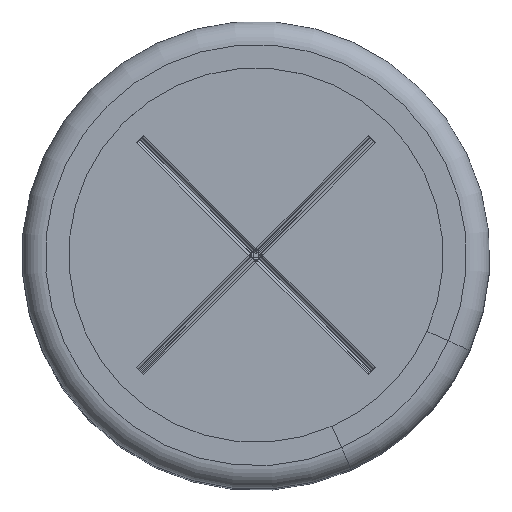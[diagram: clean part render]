
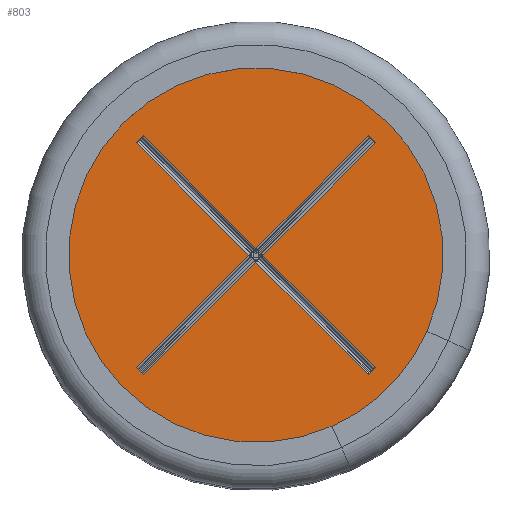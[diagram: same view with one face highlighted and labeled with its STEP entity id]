
A CAD part, top view. The second image highlights one B-rep face of the part: STEP entity #803.
In plain terms, the highlighted planar face has unit normal (0, 0, 1).
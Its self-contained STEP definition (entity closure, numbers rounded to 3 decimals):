
#176=FACE_BOUND('',#1284,.T.);
#177=FACE_BOUND('',#1285,.T.);
#687=PLANE('',#4047);
#803=ADVANCED_FACE('',(#176,#177),#687,.T.);
#1284=EDGE_LOOP('',(#2130));
#1285=EDGE_LOOP('',(#2131,#2132,#2133,#2134,#2135,#2136,#2137,#2138,#2139,
#2140,#2141,#2142));
#1517=LINE('',#5710,#1771);
#1518=LINE('',#5713,#1772);
#1519=LINE('',#5715,#1773);
#1520=LINE('',#5717,#1774);
#1521=LINE('',#5719,#1775);
#1522=LINE('',#5721,#1776);
#1523=LINE('',#5723,#1777);
#1524=LINE('',#5725,#1778);
#1525=LINE('',#5727,#1779);
#1526=LINE('',#5729,#1780);
#1527=LINE('',#5731,#1781);
#1528=LINE('',#5733,#1782);
#1771=VECTOR('',#4590,1.);
#1772=VECTOR('',#4591,1.);
#1773=VECTOR('',#4592,1.);
#1774=VECTOR('',#4593,1.);
#1775=VECTOR('',#4594,1.);
#1776=VECTOR('',#4595,1.);
#1777=VECTOR('',#4596,1.);
#1778=VECTOR('',#4597,1.);
#1779=VECTOR('',#4598,1.);
#1780=VECTOR('',#4599,1.);
#1781=VECTOR('',#4600,1.);
#1782=VECTOR('',#4601,1.);
#2130=ORIENTED_EDGE('',*,*,#3368,.F.);
#2131=ORIENTED_EDGE('',*,*,#3369,.F.);
#2132=ORIENTED_EDGE('',*,*,#3370,.T.);
#2133=ORIENTED_EDGE('',*,*,#3371,.T.);
#2134=ORIENTED_EDGE('',*,*,#3372,.T.);
#2135=ORIENTED_EDGE('',*,*,#3373,.T.);
#2136=ORIENTED_EDGE('',*,*,#3374,.T.);
#2137=ORIENTED_EDGE('',*,*,#3375,.T.);
#2138=ORIENTED_EDGE('',*,*,#3376,.T.);
#2139=ORIENTED_EDGE('',*,*,#3377,.T.);
#2140=ORIENTED_EDGE('',*,*,#3378,.F.);
#2141=ORIENTED_EDGE('',*,*,#3379,.T.);
#2142=ORIENTED_EDGE('',*,*,#3380,.T.);
#3038=VERTEX_POINT('',#5709);
#3039=VERTEX_POINT('',#5711);
#3040=VERTEX_POINT('',#5712);
#3041=VERTEX_POINT('',#5714);
#3042=VERTEX_POINT('',#5716);
#3043=VERTEX_POINT('',#5718);
#3044=VERTEX_POINT('',#5720);
#3045=VERTEX_POINT('',#5722);
#3046=VERTEX_POINT('',#5724);
#3047=VERTEX_POINT('',#5726);
#3048=VERTEX_POINT('',#5728);
#3049=VERTEX_POINT('',#5730);
#3050=VERTEX_POINT('',#5732);
#3368=EDGE_CURVE('',#3038,#3038,#3826,.T.);
#3369=EDGE_CURVE('',#3039,#3040,#1517,.T.);
#3370=EDGE_CURVE('',#3039,#3041,#1518,.T.);
#3371=EDGE_CURVE('',#3041,#3042,#1519,.T.);
#3372=EDGE_CURVE('',#3042,#3043,#1520,.T.);
#3373=EDGE_CURVE('',#3043,#3044,#1521,.T.);
#3374=EDGE_CURVE('',#3044,#3045,#1522,.T.);
#3375=EDGE_CURVE('',#3045,#3046,#1523,.T.);
#3376=EDGE_CURVE('',#3046,#3047,#1524,.T.);
#3377=EDGE_CURVE('',#3047,#3048,#1525,.T.);
#3378=EDGE_CURVE('',#3049,#3048,#1526,.T.);
#3379=EDGE_CURVE('',#3049,#3050,#1527,.T.);
#3380=EDGE_CURVE('',#3050,#3040,#1528,.T.);
#3826=CIRCLE('',#4046,9.);
#4046=AXIS2_PLACEMENT_3D('',#5708,#4588,#4589);
#4047=AXIS2_PLACEMENT_3D('',#5734,#4602,#4603);
#4588=DIRECTION('',(0.,0.,-1.));
#4589=DIRECTION('',(-1.,0.,0.));
#4590=DIRECTION('',(0.707,-0.707,0.));
#4591=DIRECTION('',(0.707,0.707,0.));
#4592=DIRECTION('',(-0.707,0.707,0.));
#4593=DIRECTION('',(0.707,0.707,0.));
#4594=DIRECTION('',(0.707,-0.707,0.));
#4595=DIRECTION('',(0.707,0.707,0.));
#4596=DIRECTION('',(0.707,-0.707,0.));
#4597=DIRECTION('',(-0.707,-0.707,0.));
#4598=DIRECTION('',(0.707,-0.707,0.));
#4599=DIRECTION('',(0.707,0.707,0.));
#4600=DIRECTION('',(-0.707,0.707,0.));
#4601=DIRECTION('',(-0.707,-0.707,0.));
#4602=DIRECTION('',(0.,0.,1.));
#4603=DIRECTION('',(1.,0.,0.));
#5708=CARTESIAN_POINT('',(0.,0.,34.8));
#5709=CARTESIAN_POINT('',(-9.,0.,34.8));
#5710=CARTESIAN_POINT('',(-5.056,-4.844,34.8));
#5711=CARTESIAN_POINT('',(-5.1,-4.8,34.8));
#5712=CARTESIAN_POINT('',(-4.8,-5.1,34.8));
#5713=CARTESIAN_POINT('',(-4.65,-4.35,34.8));
#5714=CARTESIAN_POINT('',(-0.3,0.,34.8));
#5715=CARTESIAN_POINT('',(-4.65,4.35,34.8));
#5716=CARTESIAN_POINT('',(-5.1,4.8,34.8));
#5717=CARTESIAN_POINT('',(-4.844,5.056,34.8));
#5718=CARTESIAN_POINT('',(-4.8,5.1,34.8));
#5719=CARTESIAN_POINT('',(-4.35,4.65,34.8));
#5720=CARTESIAN_POINT('',(0.,0.3,34.8));
#5721=CARTESIAN_POINT('',(-4.65,-4.35,34.8));
#5722=CARTESIAN_POINT('',(4.8,5.1,34.8));
#5723=CARTESIAN_POINT('',(4.844,5.056,34.8));
#5724=CARTESIAN_POINT('',(5.1,4.8,34.8));
#5725=CARTESIAN_POINT('',(-4.35,-4.65,34.8));
#5726=CARTESIAN_POINT('',(0.3,0.,34.8));
#5727=CARTESIAN_POINT('',(-4.35,4.65,34.8));
#5728=CARTESIAN_POINT('',(5.1,-4.8,34.8));
#5729=CARTESIAN_POINT('',(5.056,-4.844,34.8));
#5730=CARTESIAN_POINT('',(4.8,-5.1,34.8));
#5731=CARTESIAN_POINT('',(-4.65,4.35,34.8));
#5732=CARTESIAN_POINT('',(0.,-0.3,34.8));
#5733=CARTESIAN_POINT('',(-4.35,-4.65,34.8));
#5734=CARTESIAN_POINT('',(-9.,0.,34.8));
